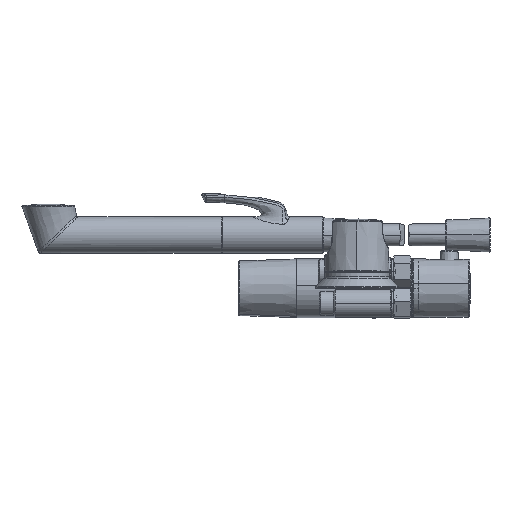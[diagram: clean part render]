
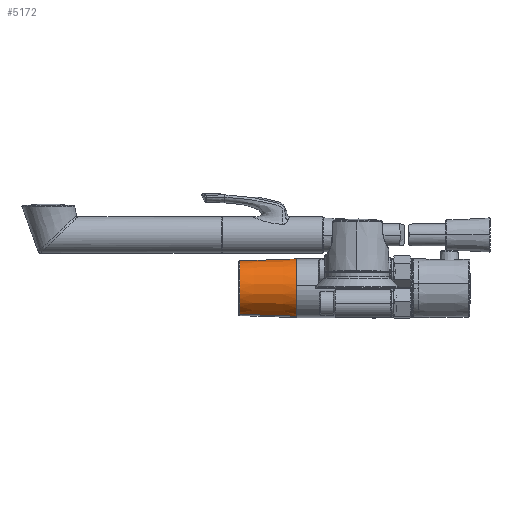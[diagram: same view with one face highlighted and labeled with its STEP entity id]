
A CAD part, left-side view. The second image highlights one B-rep face of the part: STEP entity #5172.
In plain terms, the highlighted conical face has half-angle 2 degrees and reference radius 20.004 mm.
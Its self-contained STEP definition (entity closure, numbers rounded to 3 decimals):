
#1331 = VERTEX_POINT ( 'NONE', #5918 ) ;
#2216 = CARTESIAN_POINT ( 'NONE',  ( 366.15, 40.811, 19.035 ) ) ;
#2973 = EDGE_LOOP ( 'NONE', ( #11916, #11980, #4217, #27796 ) ) ;
#4196 = AXIS2_PLACEMENT_3D ( 'NONE', #33262, #30904, #6305 ) ;
#4217 = ORIENTED_EDGE ( 'NONE', *, *, #9420, .T. ) ;
#4555 = DIRECTION ( 'NONE',  ( 0.307, 0., 0.952 ) ) ;
#5172 = ADVANCED_FACE ( 'NONE', ( #34006 ), #26424, .T. ) ;
#5336 = CIRCLE ( 'NONE', #15654, 18.641 ) ;
#5918 = CARTESIAN_POINT ( 'NONE',  ( 353.85, 40.811, -19.035 ) ) ;
#6305 = DIRECTION ( 'NONE',  ( 0.307, 0., 0.952 ) ) ;
#9083 = EDGE_CURVE ( 'NONE', #20449, #12587, #5336, .T. ) ;
#9420 = EDGE_CURVE ( 'NONE', #1331, #9706, #12046, .T. ) ;
#9706 = VERTEX_POINT ( 'NONE', #31020 ) ;
#9741 = CARTESIAN_POINT ( 'NONE',  ( 360., 79.828, 0. ) ) ;
#9850 = DIRECTION ( 'NONE',  ( 0., -1., 0. ) ) ;
#11879 = EDGE_CURVE ( 'NONE', #12587, #1331, #21229, .T. ) ;
#11916 = ORIENTED_EDGE ( 'NONE', *, *, #9083, .T. ) ;
#11980 = ORIENTED_EDGE ( 'NONE', *, *, #11879, .T. ) ;
#12046 = CIRCLE ( 'NONE', #4196, 20.004 ) ;
#12587 = VERTEX_POINT ( 'NONE', #33331 ) ;
#13090 = CARTESIAN_POINT ( 'NONE',  ( 365.731, 79.828, 17.738 ) ) ;
#14275 = AXIS2_PLACEMENT_3D ( 'NONE', #21555, #24688, #27033 ) ;
#15654 = AXIS2_PLACEMENT_3D ( 'NONE', #9741, #9850, #4555 ) ;
#18676 = EDGE_CURVE ( 'NONE', #20449, #9706, #31280, .T. ) ;
#20449 = VERTEX_POINT ( 'NONE', #13090 ) ;
#21002 = DIRECTION ( 'NONE',  ( 0.011, -0.999, 0.033 ) ) ;
#21229 = LINE ( 'NONE', #26849, #25412 ) ;
#21555 = CARTESIAN_POINT ( 'NONE',  ( 360., 40.811, 0. ) ) ;
#23815 = DIRECTION ( 'NONE',  ( -0.011, -0.999, -0.033 ) ) ;
#24688 = DIRECTION ( 'NONE',  ( 0., -1., 0. ) ) ;
#25412 = VECTOR ( 'NONE', #23815, 1000. ) ;
#26424 = CONICAL_SURFACE ( 'NONE', #14275, 20.004, 0.035 ) ;
#26849 = CARTESIAN_POINT ( 'NONE',  ( 353.85, 40.811, -19.035 ) ) ;
#27033 = DIRECTION ( 'NONE',  ( 0.307, 0., 0.952 ) ) ;
#27796 = ORIENTED_EDGE ( 'NONE', *, *, #18676, .F. ) ;
#30904 = DIRECTION ( 'NONE',  ( 0., 1., 0. ) ) ;
#31020 = CARTESIAN_POINT ( 'NONE',  ( 366.15, 40.811, 19.035 ) ) ;
#31280 = LINE ( 'NONE', #2216, #32972 ) ;
#32972 = VECTOR ( 'NONE', #21002, 1000. ) ;
#33262 = CARTESIAN_POINT ( 'NONE',  ( 360., 40.811, 0. ) ) ;
#33331 = CARTESIAN_POINT ( 'NONE',  ( 354.269, 79.828, -17.738 ) ) ;
#34006 = FACE_OUTER_BOUND ( 'NONE', #2973, .T. ) ;
